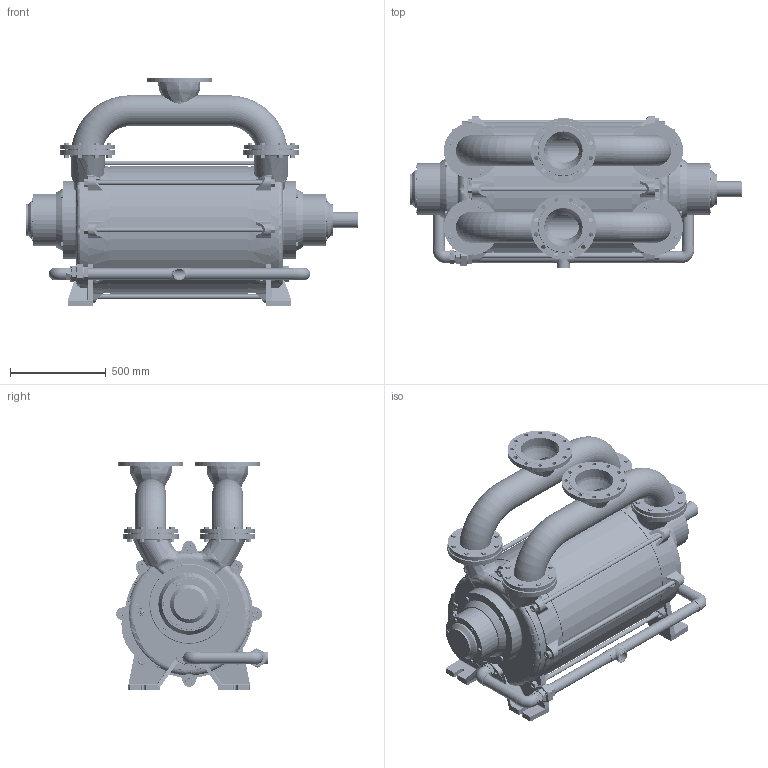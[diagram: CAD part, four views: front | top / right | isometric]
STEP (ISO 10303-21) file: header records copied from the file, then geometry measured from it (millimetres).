
FILE_DESCRIPTION (( 'STEP AP214' ), '1' );
FILE_NAME ('GMPT 520 600 MONTAJ.STEP', '2024-05-15T05:18:32', ( '' ), ( '' ), 'SwSTEP 2.0', 'SolidWorks 2024', '' );
FILE_SCHEMA (( 'AUTOMOTIVE_DESIGN' ));
Length unit declared in the file: millimetre
Products named in the file (1): GMPT 520 600 MONTAJ
Bounding box: 1733.9 x 792.54 x 1195.79 mm (x, y, z)
Volume: 464915946.4 mm3; surface area: 10139219.8 mm2
Topology: 88 solids, 116 shells, 4679 faces, 10707 edges, 6351 vertices
Faces by surface type: plane 1851, cylinder 1264, cone 1019, torus 282, bspline 216, sphere 47
Entity records: 198727 total; most frequent: CARTESIAN_POINT 94419, DIRECTION 21859, ORIENTED_EDGE 21266, EDGE_CURVE 10633, AXIS2_PLACEMENT_3D 8972, VERTEX_POINT 6349, EDGE_LOOP 5164, FACE_OUTER_BOUND 4679
